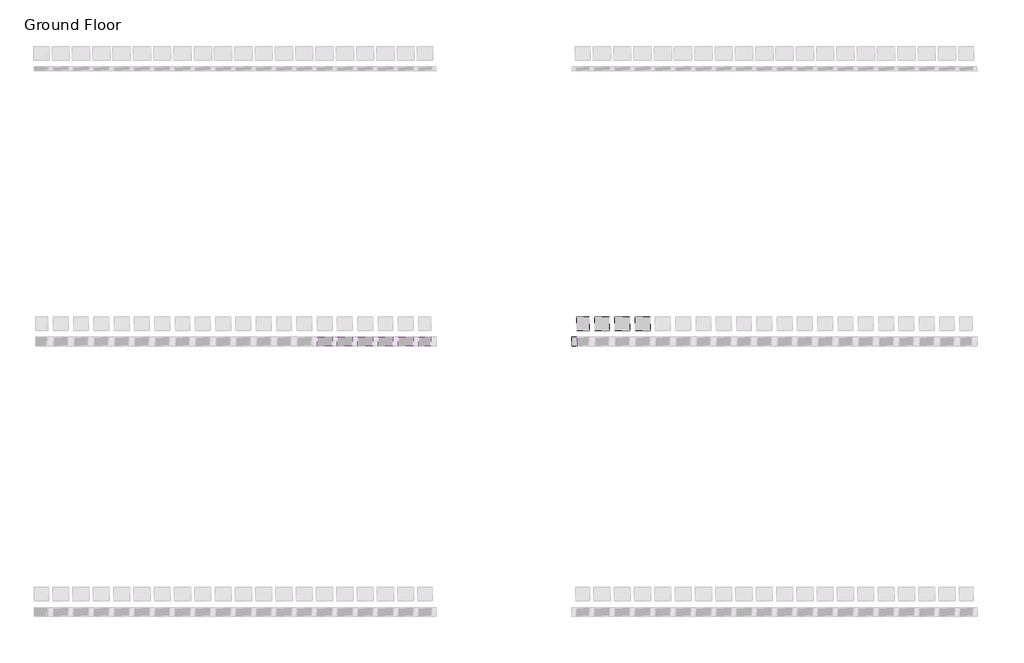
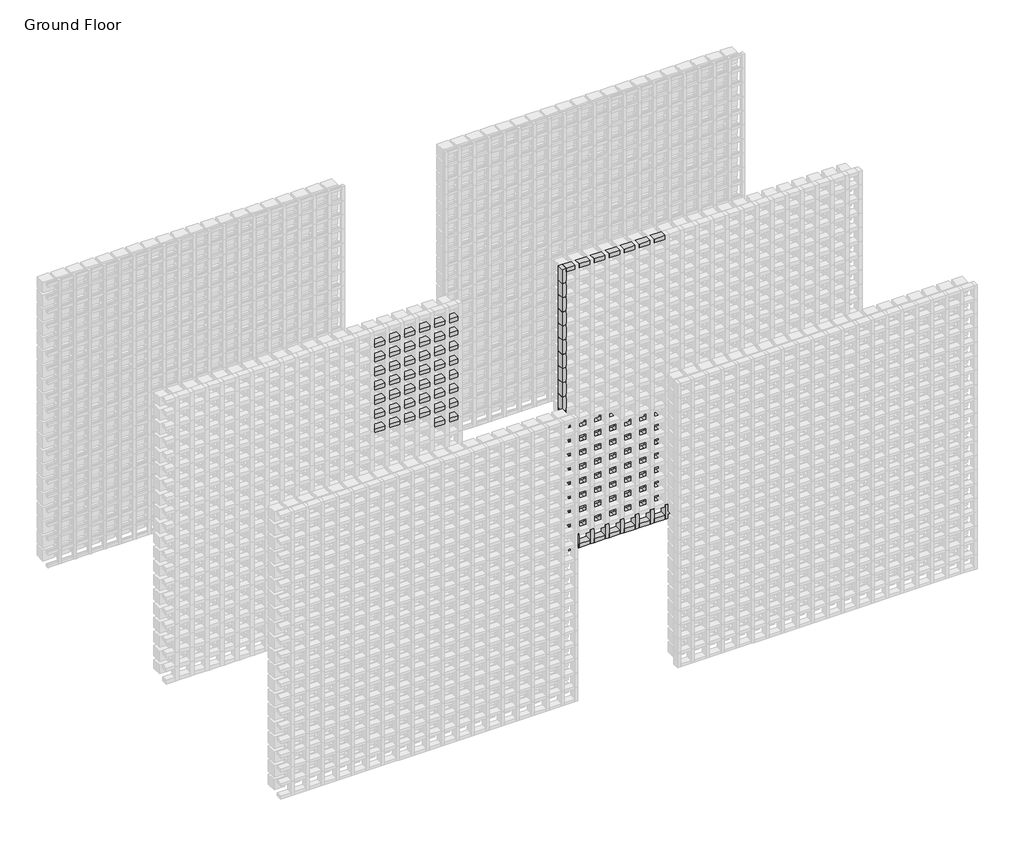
# One storey, part 126 of 350: 86 members, 53 plates.
"""IFC4 building model written with IfcOpenShell, lengths in millimetres."""

from ifc_helpers import new_model, si_unit, origin, place, context, project, spatial, transform, mapped, element, save
from components import rectangular_mullion_d93f5598, rectangular_mullion_0b6a8654, rectangular_mullion_655930e9, rectangular_mullion_78309e0b, rectangular_mullion_581565bb, rectangular_mullion_141bfd94, rectangular_mullion_d5b82d3d, rectangular_mullion_948b1c1d, empty_system_panel_empty_3b500fad, empty_system_panel_empty_e4510abc, empty_system_panel_empty_1faefc6a, empty_system_panel_empty_7f4523f5

model = new_model("IFC4")

# Units and contexts
model_context = context("Model", 3, world=origin())
ifc_project = project(units=[si_unit("LENGTHUNIT", "METRE", prefix="MILLI")], contexts=[model_context])

# Site, building, storey
site = spatial("IfcSite", under=ifc_project)
building = spatial("IfcBuilding", under=site)
storey = spatial("IfcBuildingStorey", under=building, Name="Ground Floor", Elevation=0.0)

# Members
placement = place(None, origin())
rectangular_mullion_shape = rectangular_mullion_d93f5598(model_context)
element("IfcMember", 1, ObjectType="Rectangular Mullion : Batten_Timber_Modinex_Austratus_Grid_Fascia_40x65_Blackbutt", at=placement, inside=storey, context=model_context, shape_type="MappedRepresentation", body=[
    mapped(rectangular_mullion_shape, transform((8746.4361642, 40968.2978302, 1800.0), x_axis=(0.0, 0.0, 1.0), y_axis=(0.0, -1.0, 0.0), z_axis=(1.0, 0.0, 0.0))),
])
element("IfcMember", 2, ObjectType="Rectangular Mullion : Batten_Timber_Modinex_Austratus_Grid_Fascia_40x65_Blackbutt", at=placement, inside=storey, context=model_context, shape_type="MappedRepresentation", body=[
    mapped(rectangular_mullion_shape, transform((8146.4361642, 40968.2978302, 1950.0), x_axis=(0.0, 0.0, 1.0), y_axis=(0.0, -1.0, 0.0), z_axis=(1.0, 0.0, 0.0))),
])
element("IfcMember", 3, ObjectType="Rectangular Mullion : Batten_Timber_Modinex_Austratus_Grid_Fascia_40x65_Blackbutt", at=placement, inside=storey, context=model_context, shape_type="MappedRepresentation", body=[
    mapped(rectangular_mullion_shape, transform((8296.4361642, 40968.2978302, 1950.0), x_axis=(0.0, 0.0, 1.0), y_axis=(0.0, -1.0, 0.0), z_axis=(1.0, 0.0, 0.0))),
])
element("IfcMember", 4, ObjectType="Rectangular Mullion : Batten_Timber_Modinex_Austratus_Grid_Fascia_40x65_Blackbutt", at=placement, inside=storey, context=model_context, shape_type="MappedRepresentation", body=[
    mapped(rectangular_mullion_shape, transform((8446.4361642, 40968.2978302, 1950.0), x_axis=(0.0, 0.0, 1.0), y_axis=(0.0, -1.0, 0.0), z_axis=(1.0, 0.0, 0.0))),
])
element("IfcMember", 5, ObjectType="Rectangular Mullion : Batten_Timber_Modinex_Austratus_Grid_Fascia_40x65_Blackbutt", at=placement, inside=storey, context=model_context, shape_type="MappedRepresentation", body=[
    mapped(rectangular_mullion_shape, transform((8596.4361642, 40968.2978302, 1950.0), x_axis=(0.0, 0.0, 1.0), y_axis=(0.0, -1.0, 0.0), z_axis=(1.0, 0.0, 0.0))),
])
element("IfcMember", 6, ObjectType="Rectangular Mullion : Batten_Timber_Modinex_Austratus_Grid_Fascia_40x65_Blackbutt", at=placement, inside=storey, context=model_context, shape_type="MappedRepresentation", body=[
    mapped(rectangular_mullion_shape, transform((8746.4361642, 40968.2978302, 1950.0), x_axis=(0.0, 0.0, 1.0), y_axis=(0.0, -1.0, 0.0), z_axis=(1.0, 0.0, 0.0))),
])
element("IfcMember", 7, ObjectType="Rectangular Mullion : Batten_Timber_Modinex_Austratus_Grid_Fascia_40x65_Blackbutt", at=placement, inside=storey, context=model_context, shape_type="MappedRepresentation", body=[
    mapped(rectangular_mullion_shape, transform((8146.4361642, 40968.2978302, 2100.0), x_axis=(0.0, 0.0, 1.0), y_axis=(0.0, -1.0, 0.0), z_axis=(1.0, 0.0, 0.0))),
])
element("IfcMember", 8, ObjectType="Rectangular Mullion : Batten_Timber_Modinex_Austratus_Grid_Fascia_40x65_Blackbutt", at=placement, inside=storey, context=model_context, shape_type="MappedRepresentation", body=[
    mapped(rectangular_mullion_shape, transform((8296.4361642, 40968.2978302, 2100.0), x_axis=(0.0, 0.0, 1.0), y_axis=(0.0, -1.0, 0.0), z_axis=(1.0, 0.0, 0.0))),
])
element("IfcMember", 9, ObjectType="Rectangular Mullion : Batten_Timber_Modinex_Austratus_Grid_Fascia_40x65_Blackbutt", at=placement, inside=storey, context=model_context, shape_type="MappedRepresentation", body=[
    mapped(rectangular_mullion_shape, transform((8446.4361642, 40968.2978302, 2100.0), x_axis=(0.0, 0.0, 1.0), y_axis=(0.0, -1.0, 0.0), z_axis=(1.0, 0.0, 0.0))),
])
element("IfcMember", 10, ObjectType="Rectangular Mullion : Batten_Timber_Modinex_Austratus_Grid_Fascia_40x65_Blackbutt", at=placement, inside=storey, context=model_context, shape_type="MappedRepresentation", body=[
    mapped(rectangular_mullion_shape, transform((8596.4361642, 40968.2978302, 2100.0), x_axis=(0.0, 0.0, 1.0), y_axis=(0.0, -1.0, 0.0), z_axis=(1.0, 0.0, 0.0))),
])
element("IfcMember", 11, ObjectType="Rectangular Mullion : Batten_Timber_Modinex_Austratus_Grid_Fascia_40x65_Blackbutt", at=placement, inside=storey, context=model_context, shape_type="MappedRepresentation", body=[
    mapped(rectangular_mullion_shape, transform((8746.4361642, 40968.2978302, 2100.0), x_axis=(0.0, 0.0, 1.0), y_axis=(0.0, -1.0, 0.0), z_axis=(1.0, 0.0, 0.0))),
])
element("IfcMember", 12, ObjectType="Rectangular Mullion : Batten_Timber_Modinex_Austratus_Grid_Fascia_40x65_Blackbutt", at=placement, inside=storey, context=model_context, shape_type="MappedRepresentation", body=[
    mapped(rectangular_mullion_shape, transform((8146.4361642, 40968.2978302, 2250.0), x_axis=(0.0, 0.0, 1.0), y_axis=(0.0, -1.0, 0.0), z_axis=(1.0, 0.0, 0.0))),
])
element("IfcMember", 13, ObjectType="Rectangular Mullion : Batten_Timber_Modinex_Austratus_Grid_Fascia_40x65_Blackbutt", at=placement, inside=storey, context=model_context, shape_type="MappedRepresentation", body=[
    mapped(rectangular_mullion_shape, transform((8296.4361642, 40968.2978302, 2250.0), x_axis=(0.0, 0.0, 1.0), y_axis=(0.0, -1.0, 0.0), z_axis=(1.0, 0.0, 0.0))),
])
element("IfcMember", 14, ObjectType="Rectangular Mullion : Batten_Timber_Modinex_Austratus_Grid_Fascia_40x65_Blackbutt", at=placement, inside=storey, context=model_context, shape_type="MappedRepresentation", body=[
    mapped(rectangular_mullion_shape, transform((8446.4361642, 40968.2978302, 2250.0), x_axis=(0.0, 0.0, 1.0), y_axis=(0.0, -1.0, 0.0), z_axis=(1.0, 0.0, 0.0))),
])
element("IfcMember", 15, ObjectType="Rectangular Mullion : Batten_Timber_Modinex_Austratus_Grid_Fascia_40x65_Blackbutt", at=placement, inside=storey, context=model_context, shape_type="MappedRepresentation", body=[
    mapped(rectangular_mullion_shape, transform((8596.4361642, 40968.2978302, 2250.0), x_axis=(0.0, 0.0, 1.0), y_axis=(0.0, -1.0, 0.0), z_axis=(1.0, 0.0, 0.0))),
])
element("IfcMember", 16, ObjectType="Rectangular Mullion : Batten_Timber_Modinex_Austratus_Grid_Fascia_40x65_Blackbutt", at=placement, inside=storey, context=model_context, shape_type="MappedRepresentation", body=[
    mapped(rectangular_mullion_shape, transform((8746.4361642, 40968.2978302, 2250.0), x_axis=(0.0, 0.0, 1.0), y_axis=(0.0, -1.0, 0.0), z_axis=(1.0, 0.0, 0.0))),
])
element("IfcMember", 17, ObjectType="Rectangular Mullion : Batten_Timber_Modinex_Austratus_Grid_Fascia_40x65_Blackbutt", at=placement, inside=storey, context=model_context, shape_type="MappedRepresentation", body=[
    mapped(rectangular_mullion_shape, transform((8146.4361642, 40968.2978302, 2400.0), x_axis=(0.0, 0.0, 1.0), y_axis=(0.0, -1.0, 0.0), z_axis=(1.0, 0.0, 0.0))),
])
element("IfcMember", 18, ObjectType="Rectangular Mullion : Batten_Timber_Modinex_Austratus_Grid_Fascia_40x65_Blackbutt", at=placement, inside=storey, context=model_context, shape_type="MappedRepresentation", body=[
    mapped(rectangular_mullion_shape, transform((8296.4361642, 40968.2978302, 2400.0), x_axis=(0.0, 0.0, 1.0), y_axis=(0.0, -1.0, 0.0), z_axis=(1.0, 0.0, 0.0))),
])
element("IfcMember", 19, ObjectType="Rectangular Mullion : Batten_Timber_Modinex_Austratus_Grid_Fascia_40x65_Blackbutt", at=placement, inside=storey, context=model_context, shape_type="MappedRepresentation", body=[
    mapped(rectangular_mullion_shape, transform((8446.4361642, 40968.2978302, 2400.0), x_axis=(0.0, 0.0, 1.0), y_axis=(0.0, -1.0, 0.0), z_axis=(1.0, 0.0, 0.0))),
])
element("IfcMember", 20, ObjectType="Rectangular Mullion : Batten_Timber_Modinex_Austratus_Grid_Fascia_40x65_Blackbutt", at=placement, inside=storey, context=model_context, shape_type="MappedRepresentation", body=[
    mapped(rectangular_mullion_shape, transform((8596.4361642, 40968.2978302, 2400.0), x_axis=(0.0, 0.0, 1.0), y_axis=(0.0, -1.0, 0.0), z_axis=(1.0, 0.0, 0.0))),
])
element("IfcMember", 21, ObjectType="Rectangular Mullion : Batten_Timber_Modinex_Austratus_Grid_Fascia_40x65_Blackbutt", at=placement, inside=storey, context=model_context, shape_type="MappedRepresentation", body=[
    mapped(rectangular_mullion_shape, transform((8746.4361642, 40968.2978302, 2400.0), x_axis=(0.0, 0.0, 1.0), y_axis=(0.0, -1.0, 0.0), z_axis=(1.0, 0.0, 0.0))),
])
element("IfcMember", 22, ObjectType="Rectangular Mullion : Batten_Timber_Modinex_Austratus_Grid_Fascia_40x65_Blackbutt", at=placement, inside=storey, context=model_context, shape_type="MappedRepresentation", body=[
    mapped(rectangular_mullion_shape, transform((8146.4361642, 40968.2978302, 2550.0), x_axis=(0.0, 0.0, 1.0), y_axis=(0.0, -1.0, 0.0), z_axis=(1.0, 0.0, 0.0))),
])
element("IfcMember", 23, ObjectType="Rectangular Mullion : Batten_Timber_Modinex_Austratus_Grid_Fascia_40x65_Blackbutt", at=placement, inside=storey, context=model_context, shape_type="MappedRepresentation", body=[
    mapped(rectangular_mullion_shape, transform((8296.4361642, 40968.2978302, 2550.0), x_axis=(0.0, 0.0, 1.0), y_axis=(0.0, -1.0, 0.0), z_axis=(1.0, 0.0, 0.0))),
])
element("IfcMember", 24, ObjectType="Rectangular Mullion : Batten_Timber_Modinex_Austratus_Grid_Fascia_40x65_Blackbutt", at=placement, inside=storey, context=model_context, shape_type="MappedRepresentation", body=[
    mapped(rectangular_mullion_shape, transform((8446.4361642, 40968.2978302, 2550.0), x_axis=(0.0, 0.0, 1.0), y_axis=(0.0, -1.0, 0.0), z_axis=(1.0, 0.0, 0.0))),
])
element("IfcMember", 25, ObjectType="Rectangular Mullion : Batten_Timber_Modinex_Austratus_Grid_Fascia_40x65_Blackbutt", at=placement, inside=storey, context=model_context, shape_type="MappedRepresentation", body=[
    mapped(rectangular_mullion_shape, transform((8596.4361642, 40968.2978302, 2550.0), x_axis=(0.0, 0.0, 1.0), y_axis=(0.0, -1.0, 0.0), z_axis=(1.0, 0.0, 0.0))),
])
element("IfcMember", 26, ObjectType="Rectangular Mullion : Batten_Timber_Modinex_Austratus_Grid_Fascia_40x65_Blackbutt", at=placement, inside=storey, context=model_context, shape_type="MappedRepresentation", body=[
    mapped(rectangular_mullion_shape, transform((8746.4361642, 40968.2978302, 2550.0), x_axis=(0.0, 0.0, 1.0), y_axis=(0.0, -1.0, 0.0), z_axis=(1.0, 0.0, 0.0))),
])
element("IfcMember", 27, ObjectType="Rectangular Mullion : Batten_Timber_Modinex_Austratus_Grid_Fascia_40x65_Blackbutt", at=placement, inside=storey, context=model_context, shape_type="MappedRepresentation", body=[
    mapped(rectangular_mullion_shape, transform((8146.4361642, 40968.2978302, 2700.0), x_axis=(0.0, 0.0, 1.0), y_axis=(0.0, -1.0, 0.0), z_axis=(1.0, 0.0, 0.0))),
])
element("IfcMember", 28, ObjectType="Rectangular Mullion : Batten_Timber_Modinex_Austratus_Grid_Fascia_40x65_Blackbutt", at=placement, inside=storey, context=model_context, shape_type="MappedRepresentation", body=[
    mapped(rectangular_mullion_shape, transform((8296.4361642, 40968.2978302, 2700.0), x_axis=(0.0, 0.0, 1.0), y_axis=(0.0, -1.0, 0.0), z_axis=(1.0, 0.0, 0.0))),
])
element("IfcMember", 29, ObjectType="Rectangular Mullion : Batten_Timber_Modinex_Austratus_Grid_Fascia_40x65_Blackbutt", at=placement, inside=storey, context=model_context, shape_type="MappedRepresentation", body=[
    mapped(rectangular_mullion_shape, transform((8446.4361642, 40968.2978302, 2700.0), x_axis=(0.0, 0.0, 1.0), y_axis=(0.0, -1.0, 0.0), z_axis=(1.0, 0.0, 0.0))),
])
element("IfcMember", 30, ObjectType="Rectangular Mullion : Batten_Timber_Modinex_Austratus_Grid_Fascia_40x65_Blackbutt", at=placement, inside=storey, context=model_context, shape_type="MappedRepresentation", body=[
    mapped(rectangular_mullion_shape, transform((8596.4361642, 40968.2978302, 2700.0), x_axis=(0.0, 0.0, 1.0), y_axis=(0.0, -1.0, 0.0), z_axis=(1.0, 0.0, 0.0))),
])
element("IfcMember", 31, ObjectType="Rectangular Mullion : Batten_Timber_Modinex_Austratus_Grid_Fascia_40x65_Blackbutt", at=placement, inside=storey, context=model_context, shape_type="MappedRepresentation", body=[
    mapped(rectangular_mullion_shape, transform((8746.4361642, 40968.2978302, 2700.0), x_axis=(0.0, 0.0, 1.0), y_axis=(0.0, -1.0, 0.0), z_axis=(1.0, 0.0, 0.0))),
])
element("IfcMember", 32, ObjectType="Rectangular Mullion : Batten_Timber_Modinex_Austratus_Grid_Fascia_40x65_Blackbutt", at=placement, inside=storey, context=model_context, shape_type="MappedRepresentation", body=[
    mapped(rectangular_mullion_shape, transform((8146.4361642, 40968.2978302, 2850.0), x_axis=(0.0, 0.0, 1.0), y_axis=(0.0, -1.0, 0.0), z_axis=(1.0, 0.0, 0.0))),
])
element("IfcMember", 33, ObjectType="Rectangular Mullion : Batten_Timber_Modinex_Austratus_Grid_Fascia_40x65_Blackbutt", at=placement, inside=storey, context=model_context, shape_type="MappedRepresentation", body=[
    mapped(rectangular_mullion_shape, transform((8296.4361642, 40968.2978302, 2850.0), x_axis=(0.0, 0.0, 1.0), y_axis=(0.0, -1.0, 0.0), z_axis=(1.0, 0.0, 0.0))),
])
element("IfcMember", 34, ObjectType="Rectangular Mullion : Batten_Timber_Modinex_Austratus_Grid_Fascia_40x65_Blackbutt", at=placement, inside=storey, context=model_context, shape_type="MappedRepresentation", body=[
    mapped(rectangular_mullion_shape, transform((8446.4361642, 40968.2978302, 2850.0), x_axis=(0.0, 0.0, 1.0), y_axis=(0.0, -1.0, 0.0), z_axis=(1.0, 0.0, 0.0))),
])
element("IfcMember", 35, ObjectType="Rectangular Mullion : Batten_Timber_Modinex_Austratus_Grid_Fascia_40x65_Blackbutt", at=placement, inside=storey, context=model_context, shape_type="MappedRepresentation", body=[
    mapped(rectangular_mullion_shape, transform((8596.4361642, 40968.2978302, 2850.0), x_axis=(0.0, 0.0, 1.0), y_axis=(0.0, -1.0, 0.0), z_axis=(1.0, 0.0, 0.0))),
])
element("IfcMember", 36, ObjectType="Rectangular Mullion : Batten_Timber_Modinex_Austratus_Grid_Fascia_40x65_Blackbutt", at=placement, inside=storey, context=model_context, shape_type="MappedRepresentation", body=[
    mapped(rectangular_mullion_shape, transform((8746.4361642, 40968.2978302, 2850.0), x_axis=(0.0, 0.0, 1.0), y_axis=(0.0, -1.0, 0.0), z_axis=(1.0, 0.0, 0.0))),
])
rectangular_mullion_2_shape = rectangular_mullion_0b6a8654(model_context)
element("IfcMember", 37, ObjectType="Rectangular Mullion : Batten_Timber_Modinex_Austratus_Grid_Fascia_40x65_Blackbutt", at=placement, inside=storey, context=model_context, shape_type="MappedRepresentation", body=[
    mapped(rectangular_mullion_2_shape, transform((8876.4361639, 40968.2978302, 1800.0), x_axis=(0.0, 0.0, 1.0), y_axis=(0.0, -1.0, 0.0), z_axis=(1.0, 0.0, 0.0))),
])
element("IfcMember", 38, ObjectType="Rectangular Mullion : Batten_Timber_Modinex_Austratus_Grid_Fascia_40x65_Blackbutt", at=placement, inside=storey, context=model_context, shape_type="MappedRepresentation", body=[
    mapped(rectangular_mullion_2_shape, transform((8876.4361639, 40968.2978302, 1950.0), x_axis=(0.0, 0.0, 1.0), y_axis=(0.0, -1.0, 0.0), z_axis=(1.0, 0.0, 0.0))),
])
element("IfcMember", 39, ObjectType="Rectangular Mullion : Batten_Timber_Modinex_Austratus_Grid_Fascia_40x65_Blackbutt", at=placement, inside=storey, context=model_context, shape_type="MappedRepresentation", body=[
    mapped(rectangular_mullion_2_shape, transform((8876.4361639, 40968.2978302, 2100.0), x_axis=(0.0, 0.0, 1.0), y_axis=(0.0, -1.0, 0.0), z_axis=(1.0, 0.0, 0.0))),
])
element("IfcMember", 40, ObjectType="Rectangular Mullion : Batten_Timber_Modinex_Austratus_Grid_Fascia_40x65_Blackbutt", at=placement, inside=storey, context=model_context, shape_type="MappedRepresentation", body=[
    mapped(rectangular_mullion_2_shape, transform((8876.4361639, 40968.2978302, 2250.0), x_axis=(0.0, 0.0, 1.0), y_axis=(0.0, -1.0, 0.0), z_axis=(1.0, 0.0, 0.0))),
])
element("IfcMember", 41, ObjectType="Rectangular Mullion : Batten_Timber_Modinex_Austratus_Grid_Fascia_40x65_Blackbutt", at=placement, inside=storey, context=model_context, shape_type="MappedRepresentation", body=[
    mapped(rectangular_mullion_2_shape, transform((8876.4361639, 40968.2978302, 2400.0), x_axis=(0.0, 0.0, 1.0), y_axis=(0.0, -1.0, 0.0), z_axis=(1.0, 0.0, 0.0))),
])
element("IfcMember", 42, ObjectType="Rectangular Mullion : Batten_Timber_Modinex_Austratus_Grid_Fascia_40x65_Blackbutt", at=placement, inside=storey, context=model_context, shape_type="MappedRepresentation", body=[
    mapped(rectangular_mullion_2_shape, transform((8876.4361639, 40968.2978302, 2550.0), x_axis=(0.0, 0.0, 1.0), y_axis=(0.0, -1.0, 0.0), z_axis=(1.0, 0.0, 0.0))),
])
element("IfcMember", 43, ObjectType="Rectangular Mullion : Batten_Timber_Modinex_Austratus_Grid_Fascia_40x65_Blackbutt", at=placement, inside=storey, context=model_context, shape_type="MappedRepresentation", body=[
    mapped(rectangular_mullion_2_shape, transform((8876.4361639, 40968.2978302, 2700.0), x_axis=(0.0, 0.0, 1.0), y_axis=(0.0, -1.0, 0.0), z_axis=(1.0, 0.0, 0.0))),
])
element("IfcMember", 44, ObjectType="Rectangular Mullion : Batten_Timber_Modinex_Austratus_Grid_Fascia_40x65_Blackbutt", at=placement, inside=storey, context=model_context, shape_type="MappedRepresentation", body=[
    mapped(rectangular_mullion_2_shape, transform((8876.4361639, 40968.2978302, 2850.0), x_axis=(0.0, 0.0, 1.0), y_axis=(0.0, -1.0, 0.0), z_axis=(1.0, 0.0, 0.0))),
])
rectangular_mullion_3_shape = rectangular_mullion_655930e9(model_context)
element("IfcMember", 45, ObjectType="Rectangular Mullion : Batten_Timber_Modinex_Austratus_Grid_Fascia_40x65_Hemlock", at=placement, inside=storey, context=model_context, shape_type="MappedRepresentation", body=[
    mapped(rectangular_mullion_3_shape, transform((10066.4361642, 40968.2978302, 0.0), x_axis=(1.0, 0.0, 0.0), y_axis=(0.0, -1.0, 0.0), z_axis=(0.0, 0.0, -1.0))),
])
element("IfcMember", 46, ObjectType="Rectangular Mullion : Batten_Timber_Modinex_Austratus_Grid_Fascia_40x65_Hemlock", at=placement, inside=storey, context=model_context, shape_type="MappedRepresentation", body=[
    mapped(rectangular_mullion_3_shape, transform((10216.4361642, 40968.2978302, 0.0), x_axis=(1.0, 0.0, 0.0), y_axis=(0.0, -1.0, 0.0), z_axis=(0.0, 0.0, -1.0))),
])
element("IfcMember", 47, ObjectType="Rectangular Mullion : Batten_Timber_Modinex_Austratus_Grid_Fascia_40x65_Hemlock", at=placement, inside=storey, context=model_context, shape_type="MappedRepresentation", body=[
    mapped(rectangular_mullion_3_shape, transform((10366.4361642, 40968.2978302, 0.0), x_axis=(1.0, 0.0, 0.0), y_axis=(0.0, -1.0, 0.0), z_axis=(0.0, 0.0, -1.0))),
])
element("IfcMember", 48, ObjectType="Rectangular Mullion : Batten_Timber_Modinex_Austratus_Grid_Fascia_40x65_Hemlock", at=placement, inside=storey, context=model_context, shape_type="MappedRepresentation", body=[
    mapped(rectangular_mullion_3_shape, transform((10516.4361642, 40968.2978302, 0.0), x_axis=(1.0, 0.0, 0.0), y_axis=(0.0, -1.0, 0.0), z_axis=(0.0, 0.0, -1.0))),
])
element("IfcMember", 49, ObjectType="Rectangular Mullion : Batten_Timber_Modinex_Austratus_Grid_Fascia_40x65_Hemlock", at=placement, inside=storey, context=model_context, shape_type="MappedRepresentation", body=[
    mapped(rectangular_mullion_3_shape, transform((10666.4361642, 40968.2978302, 0.0), x_axis=(1.0, 0.0, 0.0), y_axis=(0.0, -1.0, 0.0), z_axis=(0.0, 0.0, -1.0))),
])
element("IfcMember", 50, ObjectType="Rectangular Mullion : Batten_Timber_Modinex_Austratus_Grid_Fascia_40x65_Hemlock", at=placement, inside=storey, context=model_context, shape_type="MappedRepresentation", body=[
    mapped(rectangular_mullion_3_shape, transform((10816.4361642, 40968.2978302, 0.0), x_axis=(1.0, 0.0, 0.0), y_axis=(0.0, -1.0, 0.0), z_axis=(0.0, 0.0, -1.0))),
])
element("IfcMember", 51, ObjectType="Rectangular Mullion : Batten_Timber_Modinex_Austratus_Grid_Fascia_40x65_Hemlock", at=placement, inside=storey, context=model_context, shape_type="MappedRepresentation", body=[
    mapped(rectangular_mullion_3_shape, transform((10966.4361642, 40968.2978302, 0.0), x_axis=(1.0, 0.0, 0.0), y_axis=(0.0, -1.0, 0.0), z_axis=(0.0, 0.0, -1.0))),
])
rectangular_mullion_4_shape = rectangular_mullion_78309e0b(model_context)
element("IfcMember", 52, ObjectType="Rectangular Mullion : Batten_Timber_Modinex_Austratus_Grid_Fascia_40x65_Hemlock", at=placement, inside=storey, context=model_context, shape_type="MappedRepresentation", body=[
    mapped(rectangular_mullion_4_shape, transform((10046.4361642, 40968.2978302, 3000.0), x_axis=(0.0, 0.0, 1.0), y_axis=(0.0, -1.0, 0.0), z_axis=(1.0, 0.0, 0.0))),
])
rectangular_mullion_5_shape = rectangular_mullion_581565bb(model_context)
element("IfcMember", 53, ObjectType="Rectangular Mullion : Batten_Timber_Modinex_Austratus_Grid_Fascia_40x65_Hemlock", at=placement, inside=storey, context=model_context, shape_type="MappedRepresentation", body=[
    mapped(rectangular_mullion_5_shape, transform((10196.4361642, 40968.2978302, 3000.0), x_axis=(0.0, 0.0, 1.0), y_axis=(0.0, -1.0, 0.0), z_axis=(1.0, 0.0, 0.0))),
])
element("IfcMember", 54, ObjectType="Rectangular Mullion : Batten_Timber_Modinex_Austratus_Grid_Fascia_40x65_Hemlock", at=placement, inside=storey, context=model_context, shape_type="MappedRepresentation", body=[
    mapped(rectangular_mullion_5_shape, transform((10346.4361642, 40968.2978302, 3000.0), x_axis=(0.0, 0.0, 1.0), y_axis=(0.0, -1.0, 0.0), z_axis=(1.0, 0.0, 0.0))),
])
element("IfcMember", 55, ObjectType="Rectangular Mullion : Batten_Timber_Modinex_Austratus_Grid_Fascia_40x65_Hemlock", at=placement, inside=storey, context=model_context, shape_type="MappedRepresentation", body=[
    mapped(rectangular_mullion_5_shape, transform((10496.4361642, 40968.2978302, 3000.0), x_axis=(0.0, 0.0, 1.0), y_axis=(0.0, -1.0, 0.0), z_axis=(1.0, 0.0, 0.0))),
])
element("IfcMember", 56, ObjectType="Rectangular Mullion : Batten_Timber_Modinex_Austratus_Grid_Fascia_40x65_Hemlock", at=placement, inside=storey, context=model_context, shape_type="MappedRepresentation", body=[
    mapped(rectangular_mullion_5_shape, transform((10646.4361642, 40968.2978302, 3000.0), x_axis=(0.0, 0.0, 1.0), y_axis=(0.0, -1.0, 0.0), z_axis=(1.0, 0.0, 0.0))),
])
element("IfcMember", 57, ObjectType="Rectangular Mullion : Batten_Timber_Modinex_Austratus_Grid_Fascia_40x65_Hemlock", at=placement, inside=storey, context=model_context, shape_type="MappedRepresentation", body=[
    mapped(rectangular_mullion_5_shape, transform((10796.4361642, 40968.2978302, 3000.0), x_axis=(0.0, 0.0, 1.0), y_axis=(0.0, -1.0, 0.0), z_axis=(1.0, 0.0, 0.0))),
])
element("IfcMember", 58, ObjectType="Rectangular Mullion : Batten_Timber_Modinex_Austratus_Grid_Fascia_40x65_Hemlock", at=placement, inside=storey, context=model_context, shape_type="MappedRepresentation", body=[
    mapped(rectangular_mullion_5_shape, transform((10946.4361642, 40968.2978302, 3000.0), x_axis=(0.0, 0.0, 1.0), y_axis=(0.0, -1.0, 0.0), z_axis=(1.0, 0.0, 0.0))),
])
rectangular_mullion_6_shape = rectangular_mullion_141bfd94(model_context)
element("IfcMember", 59, ObjectType="Rectangular Mullion : Batten_Timber_Modinex_Austratus_Grid_Fascia_40x65_Hemlock", at=placement, inside=storey, context=model_context, shape_type="MappedRepresentation", body=[
    mapped(rectangular_mullion_6_shape, transform((9956.4361639, 40968.2978302, 0.0), x_axis=(0.0, 0.0, -1.0), y_axis=(0.0, -1.0, 0.0), z_axis=(-1.0, 0.0, 0.0))),
])
rectangular_mullion_7_shape = rectangular_mullion_d5b82d3d(model_context)
element("IfcMember", 60, ObjectType="Rectangular Mullion : Batten_Timber_Modinex_Austratus_Grid_Fascia_40x65_Hemlock", at=placement, inside=storey, context=model_context, shape_type="MappedRepresentation", body=[
    mapped(rectangular_mullion_7_shape, transform((10086.4361642, 40968.2978302, 0.0), x_axis=(0.0, 0.0, -1.0), y_axis=(0.0, -1.0, 0.0), z_axis=(-1.0, 0.0, 0.0))),
])
element("IfcMember", 61, ObjectType="Rectangular Mullion : Batten_Timber_Modinex_Austratus_Grid_Fascia_40x65_Hemlock", at=placement, inside=storey, context=model_context, shape_type="MappedRepresentation", body=[
    mapped(rectangular_mullion_7_shape, transform((10236.4361642, 40968.2978302, 0.0), x_axis=(0.0, 0.0, -1.0), y_axis=(0.0, -1.0, 0.0), z_axis=(-1.0, 0.0, 0.0))),
])
element("IfcMember", 62, ObjectType="Rectangular Mullion : Batten_Timber_Modinex_Austratus_Grid_Fascia_40x65_Hemlock", at=placement, inside=storey, context=model_context, shape_type="MappedRepresentation", body=[
    mapped(rectangular_mullion_7_shape, transform((10386.4361642, 40968.2978302, 0.0), x_axis=(0.0, 0.0, -1.0), y_axis=(0.0, -1.0, 0.0), z_axis=(-1.0, 0.0, 0.0))),
])
element("IfcMember", 63, ObjectType="Rectangular Mullion : Batten_Timber_Modinex_Austratus_Grid_Fascia_40x65_Hemlock", at=placement, inside=storey, context=model_context, shape_type="MappedRepresentation", body=[
    mapped(rectangular_mullion_7_shape, transform((10536.4361642, 40968.2978302, 0.0), x_axis=(0.0, 0.0, -1.0), y_axis=(0.0, -1.0, 0.0), z_axis=(-1.0, 0.0, 0.0))),
])
element("IfcMember", 64, ObjectType="Rectangular Mullion : Batten_Timber_Modinex_Austratus_Grid_Fascia_40x65_Hemlock", at=placement, inside=storey, context=model_context, shape_type="MappedRepresentation", body=[
    mapped(rectangular_mullion_7_shape, transform((10686.4361642, 40968.2978302, 0.0), x_axis=(0.0, 0.0, -1.0), y_axis=(0.0, -1.0, 0.0), z_axis=(-1.0, 0.0, 0.0))),
])
element("IfcMember", 65, ObjectType="Rectangular Mullion : Batten_Timber_Modinex_Austratus_Grid_Fascia_40x65_Hemlock", at=placement, inside=storey, context=model_context, shape_type="MappedRepresentation", body=[
    mapped(rectangular_mullion_7_shape, transform((10836.4361642, 40968.2978302, 0.0), x_axis=(0.0, 0.0, -1.0), y_axis=(0.0, -1.0, 0.0), z_axis=(-1.0, 0.0, 0.0))),
])
element("IfcMember", 66, ObjectType="Rectangular Mullion : Batten_Timber_Modinex_Austratus_Grid_Fascia_40x65_Hemlock", at=placement, inside=storey, context=model_context, shape_type="MappedRepresentation", body=[
    mapped(rectangular_mullion_7_shape, transform((10986.4361642, 40968.2978302, 0.0), x_axis=(0.0, 0.0, -1.0), y_axis=(0.0, -1.0, 0.0), z_axis=(-1.0, 0.0, 0.0))),
])
rectangular_mullion_8_shape = rectangular_mullion_948b1c1d(model_context)
element("IfcMember", 67, ObjectType="Rectangular Mullion : Batten_Timber_Modinex_Austratus_Grid_Fascia_40x65_Hemlock", at=placement, inside=storey, context=model_context, shape_type="MappedRepresentation", body=[
    mapped(rectangular_mullion_8_shape, transform((9916.4361639, 40968.2978302, 3000.0), x_axis=(-1.0, 0.0, 0.0), y_axis=(0.0, -1.0, 0.0), z_axis=(0.0, 0.0, 1.0))),
])
element("IfcMember", 68, ObjectType="Rectangular Mullion : Batten_Timber_Modinex_Austratus_Grid_Fascia_40x65_Hemlock", at=placement, inside=storey, context=model_context, shape_type="MappedRepresentation", body=[
    mapped(rectangular_mullion_8_shape, transform((9916.4361639, 40968.2978302, 150.0), x_axis=(-1.0, 0.0, 0.0), y_axis=(0.0, -1.0, 0.0), z_axis=(0.0, 0.0, 1.0))),
])
element("IfcMember", 69, ObjectType="Rectangular Mullion : Batten_Timber_Modinex_Austratus_Grid_Fascia_40x65_Hemlock", at=placement, inside=storey, context=model_context, shape_type="MappedRepresentation", body=[
    mapped(rectangular_mullion_8_shape, transform((9916.4361639, 40968.2978302, 300.0), x_axis=(-1.0, 0.0, 0.0), y_axis=(0.0, -1.0, 0.0), z_axis=(0.0, 0.0, 1.0))),
])
element("IfcMember", 70, ObjectType="Rectangular Mullion : Batten_Timber_Modinex_Austratus_Grid_Fascia_40x65_Hemlock", at=placement, inside=storey, context=model_context, shape_type="MappedRepresentation", body=[
    mapped(rectangular_mullion_8_shape, transform((9916.4361639, 40968.2978302, 450.0), x_axis=(-1.0, 0.0, 0.0), y_axis=(0.0, -1.0, 0.0), z_axis=(0.0, 0.0, 1.0))),
])
element("IfcMember", 71, ObjectType="Rectangular Mullion : Batten_Timber_Modinex_Austratus_Grid_Fascia_40x65_Hemlock", at=placement, inside=storey, context=model_context, shape_type="MappedRepresentation", body=[
    mapped(rectangular_mullion_8_shape, transform((9916.4361639, 40968.2978302, 600.0), x_axis=(-1.0, 0.0, 0.0), y_axis=(0.0, -1.0, 0.0), z_axis=(0.0, 0.0, 1.0))),
])
element("IfcMember", 72, ObjectType="Rectangular Mullion : Batten_Timber_Modinex_Austratus_Grid_Fascia_40x65_Hemlock", at=placement, inside=storey, context=model_context, shape_type="MappedRepresentation", body=[
    mapped(rectangular_mullion_8_shape, transform((9916.4361639, 40968.2978302, 750.0), x_axis=(-1.0, 0.0, 0.0), y_axis=(0.0, -1.0, 0.0), z_axis=(0.0, 0.0, 1.0))),
])
element("IfcMember", 73, ObjectType="Rectangular Mullion : Batten_Timber_Modinex_Austratus_Grid_Fascia_40x65_Hemlock", at=placement, inside=storey, context=model_context, shape_type="MappedRepresentation", body=[
    mapped(rectangular_mullion_8_shape, transform((9916.4361639, 40968.2978302, 900.0), x_axis=(-1.0, 0.0, 0.0), y_axis=(0.0, -1.0, 0.0), z_axis=(0.0, 0.0, 1.0))),
])
element("IfcMember", 74, ObjectType="Rectangular Mullion : Batten_Timber_Modinex_Austratus_Grid_Fascia_40x65_Hemlock", at=placement, inside=storey, context=model_context, shape_type="MappedRepresentation", body=[
    mapped(rectangular_mullion_8_shape, transform((9916.4361639, 40968.2978302, 1050.0), x_axis=(-1.0, 0.0, 0.0), y_axis=(0.0, -1.0, 0.0), z_axis=(0.0, 0.0, 1.0))),
])
element("IfcMember", 75, ObjectType="Rectangular Mullion : Batten_Timber_Modinex_Austratus_Grid_Fascia_40x65_Hemlock", at=placement, inside=storey, context=model_context, shape_type="MappedRepresentation", body=[
    mapped(rectangular_mullion_8_shape, transform((9916.4361639, 40968.2978302, 1200.0), x_axis=(-1.0, 0.0, 0.0), y_axis=(0.0, -1.0, 0.0), z_axis=(0.0, 0.0, 1.0))),
])
element("IfcMember", 76, ObjectType="Rectangular Mullion : Batten_Timber_Modinex_Austratus_Grid_Fascia_40x65_Hemlock", at=placement, inside=storey, context=model_context, shape_type="MappedRepresentation", body=[
    mapped(rectangular_mullion_8_shape, transform((9916.4361639, 40968.2978302, 1350.0), x_axis=(-1.0, 0.0, 0.0), y_axis=(0.0, -1.0, 0.0), z_axis=(0.0, 0.0, 1.0))),
])
element("IfcMember", 77, ObjectType="Rectangular Mullion : Batten_Timber_Modinex_Austratus_Grid_Fascia_40x65_Hemlock", at=placement, inside=storey, context=model_context, shape_type="MappedRepresentation", body=[
    mapped(rectangular_mullion_8_shape, transform((9916.4361639, 40968.2978302, 1500.0), x_axis=(-1.0, 0.0, 0.0), y_axis=(0.0, -1.0, 0.0), z_axis=(0.0, 0.0, 1.0))),
])
element("IfcMember", 78, ObjectType="Rectangular Mullion : Batten_Timber_Modinex_Austratus_Grid_Fascia_40x65_Hemlock", at=placement, inside=storey, context=model_context, shape_type="MappedRepresentation", body=[
    mapped(rectangular_mullion_8_shape, transform((9916.4361639, 40968.2978302, 1650.0), x_axis=(-1.0, 0.0, 0.0), y_axis=(0.0, -1.0, 0.0), z_axis=(0.0, 0.0, 1.0))),
])
element("IfcMember", 79, ObjectType="Rectangular Mullion : Batten_Timber_Modinex_Austratus_Grid_Fascia_40x65_Hemlock", at=placement, inside=storey, context=model_context, shape_type="MappedRepresentation", body=[
    mapped(rectangular_mullion_8_shape, transform((9916.4361639, 40968.2978302, 1800.0), x_axis=(-1.0, 0.0, 0.0), y_axis=(0.0, -1.0, 0.0), z_axis=(0.0, 0.0, 1.0))),
])
element("IfcMember", 80, ObjectType="Rectangular Mullion : Batten_Timber_Modinex_Austratus_Grid_Fascia_40x65_Hemlock", at=placement, inside=storey, context=model_context, shape_type="MappedRepresentation", body=[
    mapped(rectangular_mullion_8_shape, transform((9916.4361639, 40968.2978302, 1950.0), x_axis=(-1.0, 0.0, 0.0), y_axis=(0.0, -1.0, 0.0), z_axis=(0.0, 0.0, 1.0))),
])
element("IfcMember", 81, ObjectType="Rectangular Mullion : Batten_Timber_Modinex_Austratus_Grid_Fascia_40x65_Hemlock", at=placement, inside=storey, context=model_context, shape_type="MappedRepresentation", body=[
    mapped(rectangular_mullion_8_shape, transform((9916.4361639, 40968.2978302, 2100.0), x_axis=(-1.0, 0.0, 0.0), y_axis=(0.0, -1.0, 0.0), z_axis=(0.0, 0.0, 1.0))),
])
element("IfcMember", 82, ObjectType="Rectangular Mullion : Batten_Timber_Modinex_Austratus_Grid_Fascia_40x65_Hemlock", at=placement, inside=storey, context=model_context, shape_type="MappedRepresentation", body=[
    mapped(rectangular_mullion_8_shape, transform((9916.4361639, 40968.2978302, 2250.0), x_axis=(-1.0, 0.0, 0.0), y_axis=(0.0, -1.0, 0.0), z_axis=(0.0, 0.0, 1.0))),
])
element("IfcMember", 83, ObjectType="Rectangular Mullion : Batten_Timber_Modinex_Austratus_Grid_Fascia_40x65_Hemlock", at=placement, inside=storey, context=model_context, shape_type="MappedRepresentation", body=[
    mapped(rectangular_mullion_8_shape, transform((9916.4361639, 40968.2978302, 2400.0), x_axis=(-1.0, 0.0, 0.0), y_axis=(0.0, -1.0, 0.0), z_axis=(0.0, 0.0, 1.0))),
])
element("IfcMember", 84, ObjectType="Rectangular Mullion : Batten_Timber_Modinex_Austratus_Grid_Fascia_40x65_Hemlock", at=placement, inside=storey, context=model_context, shape_type="MappedRepresentation", body=[
    mapped(rectangular_mullion_8_shape, transform((9916.4361639, 40968.2978302, 2550.0), x_axis=(-1.0, 0.0, 0.0), y_axis=(0.0, -1.0, 0.0), z_axis=(0.0, 0.0, 1.0))),
])
element("IfcMember", 85, ObjectType="Rectangular Mullion : Batten_Timber_Modinex_Austratus_Grid_Fascia_40x65_Hemlock", at=placement, inside=storey, context=model_context, shape_type="MappedRepresentation", body=[
    mapped(rectangular_mullion_8_shape, transform((9916.4361639, 40968.2978302, 2700.0), x_axis=(-1.0, 0.0, 0.0), y_axis=(0.0, -1.0, 0.0), z_axis=(0.0, 0.0, 1.0))),
])
element("IfcMember", 86, ObjectType="Rectangular Mullion : Batten_Timber_Modinex_Austratus_Grid_Fascia_40x65_Hemlock", at=placement, inside=storey, context=model_context, shape_type="MappedRepresentation", body=[
    mapped(rectangular_mullion_8_shape, transform((9916.4361639, 40968.2978302, 2850.0), x_axis=(-1.0, 0.0, 0.0), y_axis=(0.0, -1.0, 0.0), z_axis=(0.0, 0.0, 1.0))),
])

# Plates
empty_system_panel_empty_shape = empty_system_panel_empty_3b500fad(model_context)
element("IfcPlate", 87, ObjectType="Empty System Panel : Empty", at=placement, inside=storey, context=model_context, shape_type="MappedRepresentation", body=[
    mapped(empty_system_panel_empty_shape, transform((10141.4361642, 40968.2978302, 170.0), x_axis=(1.0, 0.0, 0.0), y_axis=(0.0, 1.0, 0.0), z_axis=(0.0, 0.0, 1.0))),
])
element("IfcPlate", 88, ObjectType="Empty System Panel : Empty", at=placement, inside=storey, context=model_context, shape_type="MappedRepresentation", body=[
    mapped(empty_system_panel_empty_shape, transform((10291.4361642, 40968.2978302, 170.0), x_axis=(1.0, 0.0, 0.0), y_axis=(0.0, 1.0, 0.0), z_axis=(0.0, 0.0, 1.0))),
])
element("IfcPlate", 89, ObjectType="Empty System Panel : Empty", at=placement, inside=storey, context=model_context, shape_type="MappedRepresentation", body=[
    mapped(empty_system_panel_empty_shape, transform((10441.4361642, 40968.2978302, 170.0), x_axis=(1.0, 0.0, 0.0), y_axis=(0.0, 1.0, 0.0), z_axis=(0.0, 0.0, 1.0))),
])
element("IfcPlate", 90, ObjectType="Empty System Panel : Empty", at=placement, inside=storey, context=model_context, shape_type="MappedRepresentation", body=[
    mapped(empty_system_panel_empty_shape, transform((10591.4361642, 40968.2978302, 170.0), x_axis=(1.0, 0.0, 0.0), y_axis=(0.0, 1.0, 0.0), z_axis=(0.0, 0.0, 1.0))),
])
element("IfcPlate", 91, ObjectType="Empty System Panel : Empty", at=placement, inside=storey, context=model_context, shape_type="MappedRepresentation", body=[
    mapped(empty_system_panel_empty_shape, transform((10741.4361642, 40968.2978302, 170.0), x_axis=(1.0, 0.0, 0.0), y_axis=(0.0, 1.0, 0.0), z_axis=(0.0, 0.0, 1.0))),
])
element("IfcPlate", 92, ObjectType="Empty System Panel : Empty", at=placement, inside=storey, context=model_context, shape_type="MappedRepresentation", body=[
    mapped(empty_system_panel_empty_shape, transform((10891.4361642, 40968.2978302, 170.0), x_axis=(1.0, 0.0, 0.0), y_axis=(0.0, 1.0, 0.0), z_axis=(0.0, 0.0, 1.0))),
])
element("IfcPlate", 93, ObjectType="Empty System Panel : Empty", at=placement, inside=storey, context=model_context, shape_type="MappedRepresentation", body=[
    mapped(empty_system_panel_empty_shape, transform((10141.4361642, 40968.2978302, 320.0), x_axis=(1.0, 0.0, 0.0), y_axis=(0.0, 1.0, 0.0), z_axis=(0.0, 0.0, 1.0))),
])
element("IfcPlate", 94, ObjectType="Empty System Panel : Empty", at=placement, inside=storey, context=model_context, shape_type="MappedRepresentation", body=[
    mapped(empty_system_panel_empty_shape, transform((10291.4361642, 40968.2978302, 320.0), x_axis=(1.0, 0.0, 0.0), y_axis=(0.0, 1.0, 0.0), z_axis=(0.0, 0.0, 1.0))),
])
element("IfcPlate", 95, ObjectType="Empty System Panel : Empty", at=placement, inside=storey, context=model_context, shape_type="MappedRepresentation", body=[
    mapped(empty_system_panel_empty_shape, transform((10441.4361642, 40968.2978302, 320.0), x_axis=(1.0, 0.0, 0.0), y_axis=(0.0, 1.0, 0.0), z_axis=(0.0, 0.0, 1.0))),
])
element("IfcPlate", 96, ObjectType="Empty System Panel : Empty", at=placement, inside=storey, context=model_context, shape_type="MappedRepresentation", body=[
    mapped(empty_system_panel_empty_shape, transform((10591.4361642, 40968.2978302, 320.0), x_axis=(1.0, 0.0, 0.0), y_axis=(0.0, 1.0, 0.0), z_axis=(0.0, 0.0, 1.0))),
])
element("IfcPlate", 97, ObjectType="Empty System Panel : Empty", at=placement, inside=storey, context=model_context, shape_type="MappedRepresentation", body=[
    mapped(empty_system_panel_empty_shape, transform((10741.4361642, 40968.2978302, 320.0), x_axis=(1.0, 0.0, 0.0), y_axis=(0.0, 1.0, 0.0), z_axis=(0.0, 0.0, 1.0))),
])
element("IfcPlate", 98, ObjectType="Empty System Panel : Empty", at=placement, inside=storey, context=model_context, shape_type="MappedRepresentation", body=[
    mapped(empty_system_panel_empty_shape, transform((10891.4361642, 40968.2978302, 320.0), x_axis=(1.0, 0.0, 0.0), y_axis=(0.0, 1.0, 0.0), z_axis=(0.0, 0.0, 1.0))),
])
element("IfcPlate", 99, ObjectType="Empty System Panel : Empty", at=placement, inside=storey, context=model_context, shape_type="MappedRepresentation", body=[
    mapped(empty_system_panel_empty_shape, transform((10141.4361642, 40968.2978302, 470.0), x_axis=(1.0, 0.0, 0.0), y_axis=(0.0, 1.0, 0.0), z_axis=(0.0, 0.0, 1.0))),
])
element("IfcPlate", 100, ObjectType="Empty System Panel : Empty", at=placement, inside=storey, context=model_context, shape_type="MappedRepresentation", body=[
    mapped(empty_system_panel_empty_shape, transform((10291.4361642, 40968.2978302, 470.0), x_axis=(1.0, 0.0, 0.0), y_axis=(0.0, 1.0, 0.0), z_axis=(0.0, 0.0, 1.0))),
])
element("IfcPlate", 101, ObjectType="Empty System Panel : Empty", at=placement, inside=storey, context=model_context, shape_type="MappedRepresentation", body=[
    mapped(empty_system_panel_empty_shape, transform((10441.4361642, 40968.2978302, 470.0), x_axis=(1.0, 0.0, 0.0), y_axis=(0.0, 1.0, 0.0), z_axis=(0.0, 0.0, 1.0))),
])
element("IfcPlate", 102, ObjectType="Empty System Panel : Empty", at=placement, inside=storey, context=model_context, shape_type="MappedRepresentation", body=[
    mapped(empty_system_panel_empty_shape, transform((10591.4361642, 40968.2978302, 470.0), x_axis=(1.0, 0.0, 0.0), y_axis=(0.0, 1.0, 0.0), z_axis=(0.0, 0.0, 1.0))),
])
element("IfcPlate", 103, ObjectType="Empty System Panel : Empty", at=placement, inside=storey, context=model_context, shape_type="MappedRepresentation", body=[
    mapped(empty_system_panel_empty_shape, transform((10741.4361642, 40968.2978302, 470.0), x_axis=(1.0, 0.0, 0.0), y_axis=(0.0, 1.0, 0.0), z_axis=(0.0, 0.0, 1.0))),
])
element("IfcPlate", 104, ObjectType="Empty System Panel : Empty", at=placement, inside=storey, context=model_context, shape_type="MappedRepresentation", body=[
    mapped(empty_system_panel_empty_shape, transform((10891.4361642, 40968.2978302, 470.0), x_axis=(1.0, 0.0, 0.0), y_axis=(0.0, 1.0, 0.0), z_axis=(0.0, 0.0, 1.0))),
])
element("IfcPlate", 105, ObjectType="Empty System Panel : Empty", at=placement, inside=storey, context=model_context, shape_type="MappedRepresentation", body=[
    mapped(empty_system_panel_empty_shape, transform((10141.4361642, 40968.2978302, 620.0), x_axis=(1.0, 0.0, 0.0), y_axis=(0.0, 1.0, 0.0), z_axis=(0.0, 0.0, 1.0))),
])
element("IfcPlate", 106, ObjectType="Empty System Panel : Empty", at=placement, inside=storey, context=model_context, shape_type="MappedRepresentation", body=[
    mapped(empty_system_panel_empty_shape, transform((10291.4361642, 40968.2978302, 620.0), x_axis=(1.0, 0.0, 0.0), y_axis=(0.0, 1.0, 0.0), z_axis=(0.0, 0.0, 1.0))),
])
element("IfcPlate", 107, ObjectType="Empty System Panel : Empty", at=placement, inside=storey, context=model_context, shape_type="MappedRepresentation", body=[
    mapped(empty_system_panel_empty_shape, transform((10441.4361642, 40968.2978302, 620.0), x_axis=(1.0, 0.0, 0.0), y_axis=(0.0, 1.0, 0.0), z_axis=(0.0, 0.0, 1.0))),
])
element("IfcPlate", 108, ObjectType="Empty System Panel : Empty", at=placement, inside=storey, context=model_context, shape_type="MappedRepresentation", body=[
    mapped(empty_system_panel_empty_shape, transform((10591.4361642, 40968.2978302, 620.0), x_axis=(1.0, 0.0, 0.0), y_axis=(0.0, 1.0, 0.0), z_axis=(0.0, 0.0, 1.0))),
])
element("IfcPlate", 109, ObjectType="Empty System Panel : Empty", at=placement, inside=storey, context=model_context, shape_type="MappedRepresentation", body=[
    mapped(empty_system_panel_empty_shape, transform((10741.4361642, 40968.2978302, 620.0), x_axis=(1.0, 0.0, 0.0), y_axis=(0.0, 1.0, 0.0), z_axis=(0.0, 0.0, 1.0))),
])
element("IfcPlate", 110, ObjectType="Empty System Panel : Empty", at=placement, inside=storey, context=model_context, shape_type="MappedRepresentation", body=[
    mapped(empty_system_panel_empty_shape, transform((10891.4361642, 40968.2978302, 620.0), x_axis=(1.0, 0.0, 0.0), y_axis=(0.0, 1.0, 0.0), z_axis=(0.0, 0.0, 1.0))),
])
element("IfcPlate", 111, ObjectType="Empty System Panel : Empty", at=placement, inside=storey, context=model_context, shape_type="MappedRepresentation", body=[
    mapped(empty_system_panel_empty_shape, transform((10141.4361642, 40968.2978302, 770.0), x_axis=(1.0, 0.0, 0.0), y_axis=(0.0, 1.0, 0.0), z_axis=(0.0, 0.0, 1.0))),
])
element("IfcPlate", 112, ObjectType="Empty System Panel : Empty", at=placement, inside=storey, context=model_context, shape_type="MappedRepresentation", body=[
    mapped(empty_system_panel_empty_shape, transform((10291.4361642, 40968.2978302, 770.0), x_axis=(1.0, 0.0, 0.0), y_axis=(0.0, 1.0, 0.0), z_axis=(0.0, 0.0, 1.0))),
])
element("IfcPlate", 113, ObjectType="Empty System Panel : Empty", at=placement, inside=storey, context=model_context, shape_type="MappedRepresentation", body=[
    mapped(empty_system_panel_empty_shape, transform((10441.4361642, 40968.2978302, 770.0), x_axis=(1.0, 0.0, 0.0), y_axis=(0.0, 1.0, 0.0), z_axis=(0.0, 0.0, 1.0))),
])
element("IfcPlate", 114, ObjectType="Empty System Panel : Empty", at=placement, inside=storey, context=model_context, shape_type="MappedRepresentation", body=[
    mapped(empty_system_panel_empty_shape, transform((10591.4361642, 40968.2978302, 770.0), x_axis=(1.0, 0.0, 0.0), y_axis=(0.0, 1.0, 0.0), z_axis=(0.0, 0.0, 1.0))),
])
element("IfcPlate", 115, ObjectType="Empty System Panel : Empty", at=placement, inside=storey, context=model_context, shape_type="MappedRepresentation", body=[
    mapped(empty_system_panel_empty_shape, transform((10741.4361642, 40968.2978302, 770.0), x_axis=(1.0, 0.0, 0.0), y_axis=(0.0, 1.0, 0.0), z_axis=(0.0, 0.0, 1.0))),
])
element("IfcPlate", 116, ObjectType="Empty System Panel : Empty", at=placement, inside=storey, context=model_context, shape_type="MappedRepresentation", body=[
    mapped(empty_system_panel_empty_shape, transform((10891.4361642, 40968.2978302, 770.0), x_axis=(1.0, 0.0, 0.0), y_axis=(0.0, 1.0, 0.0), z_axis=(0.0, 0.0, 1.0))),
])
element("IfcPlate", 117, ObjectType="Empty System Panel : Empty", at=placement, inside=storey, context=model_context, shape_type="MappedRepresentation", body=[
    mapped(empty_system_panel_empty_shape, transform((10141.4361642, 40968.2978302, 920.0), x_axis=(1.0, 0.0, 0.0), y_axis=(0.0, 1.0, 0.0), z_axis=(0.0, 0.0, 1.0))),
])
element("IfcPlate", 118, ObjectType="Empty System Panel : Empty", at=placement, inside=storey, context=model_context, shape_type="MappedRepresentation", body=[
    mapped(empty_system_panel_empty_shape, transform((10291.4361642, 40968.2978302, 920.0), x_axis=(1.0, 0.0, 0.0), y_axis=(0.0, 1.0, 0.0), z_axis=(0.0, 0.0, 1.0))),
])
element("IfcPlate", 119, ObjectType="Empty System Panel : Empty", at=placement, inside=storey, context=model_context, shape_type="MappedRepresentation", body=[
    mapped(empty_system_panel_empty_shape, transform((10441.4361642, 40968.2978302, 920.0), x_axis=(1.0, 0.0, 0.0), y_axis=(0.0, 1.0, 0.0), z_axis=(0.0, 0.0, 1.0))),
])
element("IfcPlate", 120, ObjectType="Empty System Panel : Empty", at=placement, inside=storey, context=model_context, shape_type="MappedRepresentation", body=[
    mapped(empty_system_panel_empty_shape, transform((10591.4361642, 40968.2978302, 920.0), x_axis=(1.0, 0.0, 0.0), y_axis=(0.0, 1.0, 0.0), z_axis=(0.0, 0.0, 1.0))),
])
element("IfcPlate", 121, ObjectType="Empty System Panel : Empty", at=placement, inside=storey, context=model_context, shape_type="MappedRepresentation", body=[
    mapped(empty_system_panel_empty_shape, transform((10741.4361642, 40968.2978302, 920.0), x_axis=(1.0, 0.0, 0.0), y_axis=(0.0, 1.0, 0.0), z_axis=(0.0, 0.0, 1.0))),
])
element("IfcPlate", 122, ObjectType="Empty System Panel : Empty", at=placement, inside=storey, context=model_context, shape_type="MappedRepresentation", body=[
    mapped(empty_system_panel_empty_shape, transform((10891.4361642, 40968.2978302, 920.0), x_axis=(1.0, 0.0, 0.0), y_axis=(0.0, 1.0, 0.0), z_axis=(0.0, 0.0, 1.0))),
])
element("IfcPlate", 123, ObjectType="Empty System Panel : Empty", at=placement, inside=storey, context=model_context, shape_type="MappedRepresentation", body=[
    mapped(empty_system_panel_empty_shape, transform((10141.4361642, 40968.2978302, 1070.0), x_axis=(1.0, 0.0, 0.0), y_axis=(0.0, 1.0, 0.0), z_axis=(0.0, 0.0, 1.0))),
])
element("IfcPlate", 124, ObjectType="Empty System Panel : Empty", at=placement, inside=storey, context=model_context, shape_type="MappedRepresentation", body=[
    mapped(empty_system_panel_empty_shape, transform((10291.4361642, 40968.2978302, 1070.0), x_axis=(1.0, 0.0, 0.0), y_axis=(0.0, 1.0, 0.0), z_axis=(0.0, 0.0, 1.0))),
])
element("IfcPlate", 125, ObjectType="Empty System Panel : Empty", at=placement, inside=storey, context=model_context, shape_type="MappedRepresentation", body=[
    mapped(empty_system_panel_empty_shape, transform((10441.4361642, 40968.2978302, 1070.0), x_axis=(1.0, 0.0, 0.0), y_axis=(0.0, 1.0, 0.0), z_axis=(0.0, 0.0, 1.0))),
])
empty_system_panel_empty_2_shape = empty_system_panel_empty_e4510abc(model_context)
element("IfcPlate", 126, ObjectType="Empty System Panel : Empty", at=placement, inside=storey, context=model_context, shape_type="MappedRepresentation", body=[
    mapped(empty_system_panel_empty_2_shape, transform((10001.4361641, 40968.2978302, 40.0), x_axis=(1.0, 0.0, 0.0), y_axis=(0.0, 1.0, 0.0), z_axis=(0.0, 0.0, 1.0))),
])
empty_system_panel_empty_3_shape = empty_system_panel_empty_1faefc6a(model_context)
element("IfcPlate", 127, ObjectType="Empty System Panel : Empty", at=placement, inside=storey, context=model_context, shape_type="MappedRepresentation", body=[
    mapped(empty_system_panel_empty_3_shape, transform((10141.4361642, 40968.2978302, 40.0), x_axis=(1.0, 0.0, 0.0), y_axis=(0.0, 1.0, 0.0), z_axis=(0.0, 0.0, 1.0))),
])
element("IfcPlate", 128, ObjectType="Empty System Panel : Empty", at=placement, inside=storey, context=model_context, shape_type="MappedRepresentation", body=[
    mapped(empty_system_panel_empty_3_shape, transform((10291.4361642, 40968.2978302, 40.0), x_axis=(1.0, 0.0, 0.0), y_axis=(0.0, 1.0, 0.0), z_axis=(0.0, 0.0, 1.0))),
])
element("IfcPlate", 129, ObjectType="Empty System Panel : Empty", at=placement, inside=storey, context=model_context, shape_type="MappedRepresentation", body=[
    mapped(empty_system_panel_empty_3_shape, transform((10441.4361642, 40968.2978302, 40.0), x_axis=(1.0, 0.0, 0.0), y_axis=(0.0, 1.0, 0.0), z_axis=(0.0, 0.0, 1.0))),
])
element("IfcPlate", 130, ObjectType="Empty System Panel : Empty", at=placement, inside=storey, context=model_context, shape_type="MappedRepresentation", body=[
    mapped(empty_system_panel_empty_3_shape, transform((10591.4361642, 40968.2978302, 40.0), x_axis=(1.0, 0.0, 0.0), y_axis=(0.0, 1.0, 0.0), z_axis=(0.0, 0.0, 1.0))),
])
element("IfcPlate", 131, ObjectType="Empty System Panel : Empty", at=placement, inside=storey, context=model_context, shape_type="MappedRepresentation", body=[
    mapped(empty_system_panel_empty_3_shape, transform((10741.4361642, 40968.2978302, 40.0), x_axis=(1.0, 0.0, 0.0), y_axis=(0.0, 1.0, 0.0), z_axis=(0.0, 0.0, 1.0))),
])
element("IfcPlate", 132, ObjectType="Empty System Panel : Empty", at=placement, inside=storey, context=model_context, shape_type="MappedRepresentation", body=[
    mapped(empty_system_panel_empty_3_shape, transform((10891.4361642, 40968.2978302, 40.0), x_axis=(1.0, 0.0, 0.0), y_axis=(0.0, 1.0, 0.0), z_axis=(0.0, 0.0, 1.0))),
])
empty_system_panel_empty_4_shape = empty_system_panel_empty_7f4523f5(model_context)
element("IfcPlate", 133, ObjectType="Empty System Panel : Empty", at=placement, inside=storey, context=model_context, shape_type="MappedRepresentation", body=[
    mapped(empty_system_panel_empty_4_shape, transform((10001.4361641, 40968.2978302, 170.0), x_axis=(1.0, 0.0, 0.0), y_axis=(0.0, 1.0, 0.0), z_axis=(0.0, 0.0, 1.0))),
])
element("IfcPlate", 134, ObjectType="Empty System Panel : Empty", at=placement, inside=storey, context=model_context, shape_type="MappedRepresentation", body=[
    mapped(empty_system_panel_empty_4_shape, transform((10001.4361641, 40968.2978302, 320.0), x_axis=(1.0, 0.0, 0.0), y_axis=(0.0, 1.0, 0.0), z_axis=(0.0, 0.0, 1.0))),
])
element("IfcPlate", 135, ObjectType="Empty System Panel : Empty", at=placement, inside=storey, context=model_context, shape_type="MappedRepresentation", body=[
    mapped(empty_system_panel_empty_4_shape, transform((10001.4361641, 40968.2978302, 470.0), x_axis=(1.0, 0.0, 0.0), y_axis=(0.0, 1.0, 0.0), z_axis=(0.0, 0.0, 1.0))),
])
element("IfcPlate", 136, ObjectType="Empty System Panel : Empty", at=placement, inside=storey, context=model_context, shape_type="MappedRepresentation", body=[
    mapped(empty_system_panel_empty_4_shape, transform((10001.4361641, 40968.2978302, 620.0), x_axis=(1.0, 0.0, 0.0), y_axis=(0.0, 1.0, 0.0), z_axis=(0.0, 0.0, 1.0))),
])
element("IfcPlate", 137, ObjectType="Empty System Panel : Empty", at=placement, inside=storey, context=model_context, shape_type="MappedRepresentation", body=[
    mapped(empty_system_panel_empty_4_shape, transform((10001.4361641, 40968.2978302, 770.0), x_axis=(1.0, 0.0, 0.0), y_axis=(0.0, 1.0, 0.0), z_axis=(0.0, 0.0, 1.0))),
])
element("IfcPlate", 138, ObjectType="Empty System Panel : Empty", at=placement, inside=storey, context=model_context, shape_type="MappedRepresentation", body=[
    mapped(empty_system_panel_empty_4_shape, transform((10001.4361641, 40968.2978302, 920.0), x_axis=(1.0, 0.0, 0.0), y_axis=(0.0, 1.0, 0.0), z_axis=(0.0, 0.0, 1.0))),
])
element("IfcPlate", 139, ObjectType="Empty System Panel : Empty", at=placement, inside=storey, context=model_context, shape_type="MappedRepresentation", body=[
    mapped(empty_system_panel_empty_4_shape, transform((10001.4361641, 40968.2978302, 1070.0), x_axis=(1.0, 0.0, 0.0), y_axis=(0.0, 1.0, 0.0), z_axis=(0.0, 0.0, 1.0))),
])

save(model, "model.ifc")
